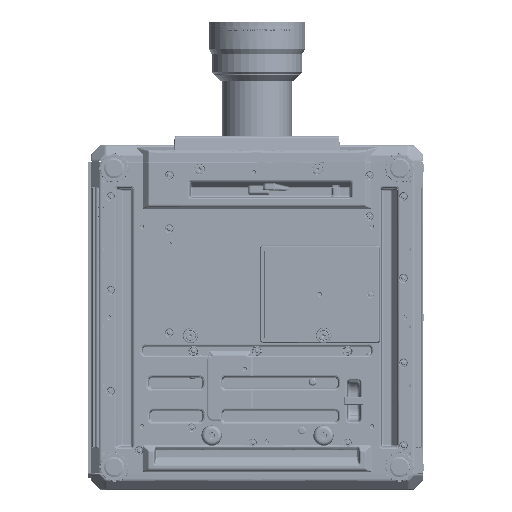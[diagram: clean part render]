
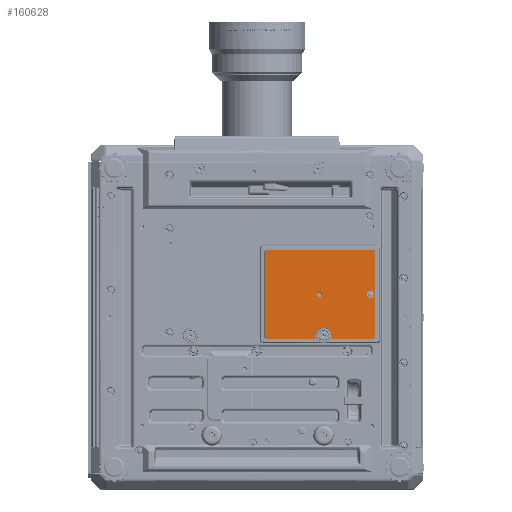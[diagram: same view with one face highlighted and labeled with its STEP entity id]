
A CAD part, front view. The second image highlights one B-rep face of the part: STEP entity #160628.
In plain terms, the highlighted planar face has unit normal (0, -1, 0).
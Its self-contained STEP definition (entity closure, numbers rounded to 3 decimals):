
#15108=ELLIPSE('',#349936,1.504,1.5);
#15109=ELLIPSE('',#349937,1.504,1.5);
#15110=ELLIPSE('',#349939,1.504,1.5);
#15111=ELLIPSE('',#349940,1.504,1.5);
#41187=LINE('',#520920,#67262);
#41188=LINE('',#520925,#67263);
#41189=LINE('',#520929,#67264);
#41190=LINE('',#520973,#67265);
#41191=LINE('',#520977,#67266);
#67262=VECTOR('',#401136,1.);
#67263=VECTOR('',#401139,1.);
#67264=VECTOR('',#401142,1.);
#67265=VECTOR('',#401145,1.);
#67266=VECTOR('',#401148,1.);
#84534=B_SPLINE_CURVE_WITH_KNOTS('',3,(#520931,#520932,#520933,#520934,
#520935,#520936,#520937,#520938,#520939,#520940,#520941,#520942,#520943,
#520944,#520945,#520946,#520947,#520948,#520949),.UNSPECIFIED.,.F.,.F.,
(4,3,3,3,3,3,4),(0.,0.054,0.243,0.432,
0.621,0.811,1.),.UNSPECIFIED.);
#84535=B_SPLINE_CURVE_WITH_KNOTS('',3,(#520953,#520954,#520955,#520956,
#520957,#520958,#520959,#520960,#520961,#520962,#520963,#520964,#520965,
#520966,#520967,#520968,#520969,#520970,#520971),.UNSPECIFIED.,.F.,.F.,
(4,3,3,3,3,3,4),(0.,0.054,0.243,0.432,
0.621,0.811,1.),.UNSPECIFIED.);
#160628=ADVANCED_FACE('',(#172300,#172301,#172302),#168080,.F.);
#168080=PLANE('',#349941);
#172300=FACE_BOUND('',#179466,.T.);
#172301=FACE_BOUND('',#179467,.T.);
#172302=FACE_BOUND('',#179468,.T.);
#179466=EDGE_LOOP('',(#215989));
#179467=EDGE_LOOP('',(#215990));
#179468=EDGE_LOOP('',(#215991,#215992,#215993,#215994,#215995,#215996,#215997,
#215998,#215999,#216000,#216001,#216002));
#215989=ORIENTED_EDGE('',*,*,#305761,.T.);
#215990=ORIENTED_EDGE('',*,*,#305762,.T.);
#215991=ORIENTED_EDGE('',*,*,#305763,.T.);
#215992=ORIENTED_EDGE('',*,*,#305764,.T.);
#215993=ORIENTED_EDGE('',*,*,#305765,.T.);
#215994=ORIENTED_EDGE('',*,*,#305766,.T.);
#215995=ORIENTED_EDGE('',*,*,#305767,.T.);
#215996=ORIENTED_EDGE('',*,*,#305768,.T.);
#215997=ORIENTED_EDGE('',*,*,#305769,.T.);
#215998=ORIENTED_EDGE('',*,*,#305770,.T.);
#215999=ORIENTED_EDGE('',*,*,#305771,.T.);
#216000=ORIENTED_EDGE('',*,*,#305772,.T.);
#216001=ORIENTED_EDGE('',*,*,#305773,.T.);
#216002=ORIENTED_EDGE('',*,*,#305774,.T.);
#263201=VERTEX_POINT('',#520916);
#263202=VERTEX_POINT('',#520919);
#263203=VERTEX_POINT('',#520921);
#263204=VERTEX_POINT('',#520922);
#263205=VERTEX_POINT('',#520924);
#263206=VERTEX_POINT('',#520926);
#263207=VERTEX_POINT('',#520928);
#263208=VERTEX_POINT('',#520930);
#263209=VERTEX_POINT('',#520950);
#263210=VERTEX_POINT('',#520952);
#263211=VERTEX_POINT('',#520972);
#263212=VERTEX_POINT('',#520974);
#263213=VERTEX_POINT('',#520976);
#263214=VERTEX_POINT('',#520978);
#305761=EDGE_CURVE('',#263201,#263201,#333121,.T.);
#305762=EDGE_CURVE('',#263202,#263202,#333122,.T.);
#305763=EDGE_CURVE('',#263203,#263204,#41187,.T.);
#305764=EDGE_CURVE('',#263204,#263205,#15108,.T.);
#305765=EDGE_CURVE('',#263205,#263206,#41188,.T.);
#305766=EDGE_CURVE('',#263206,#263207,#15109,.T.);
#305767=EDGE_CURVE('',#263207,#263208,#41189,.T.);
#305768=EDGE_CURVE('',#263208,#263209,#84534,.T.);
#305769=EDGE_CURVE('',#263209,#263210,#333123,.T.);
#305770=EDGE_CURVE('',#263210,#263211,#84535,.T.);
#305771=EDGE_CURVE('',#263211,#263212,#41190,.T.);
#305772=EDGE_CURVE('',#263212,#263213,#15110,.T.);
#305773=EDGE_CURVE('',#263213,#263214,#41191,.T.);
#305774=EDGE_CURVE('',#263214,#263203,#15111,.T.);
#333121=CIRCLE('',#349933,4.);
#333122=CIRCLE('',#349935,6.125);
#333123=CIRCLE('',#349938,13.358);
#349933=AXIS2_PLACEMENT_3D('',#520915,#401130,#401131);
#349935=AXIS2_PLACEMENT_3D('',#520918,#401134,#401135);
#349936=AXIS2_PLACEMENT_3D('',#520923,#401137,#401138);
#349937=AXIS2_PLACEMENT_3D('',#520927,#401140,#401141);
#349938=AXIS2_PLACEMENT_3D('',#520951,#401143,#401144);
#349939=AXIS2_PLACEMENT_3D('',#520975,#401146,#401147);
#349940=AXIS2_PLACEMENT_3D('',#520979,#401149,#401150);
#349941=AXIS2_PLACEMENT_3D('',#520980,#401151,#401152);
#401130=DIRECTION('',(0.,1.,0.));
#401131=DIRECTION('',(0.,0.,1.));
#401134=DIRECTION('',(0.,1.,0.));
#401135=DIRECTION('',(0.,0.,1.));
#401136=DIRECTION('',(-1.,0.,0.));
#401137=DIRECTION('',(0.,-1.,0.));
#401138=DIRECTION('',(0.707,0.,-0.707));
#401139=DIRECTION('',(0.,0.,-1.));
#401140=DIRECTION('',(0.,-1.,0.));
#401141=DIRECTION('',(-0.707,0.,-0.707));
#401142=DIRECTION('',(1.,0.,0.));
#401143=DIRECTION('',(0.,1.,0.));
#401144=DIRECTION('',(0.,0.,1.));
#401145=DIRECTION('',(1.,0.,0.));
#401146=DIRECTION('',(0.,-1.,0.));
#401147=DIRECTION('',(-0.707,0.,0.707));
#401148=DIRECTION('',(0.,0.,1.));
#401149=DIRECTION('',(0.,-1.,0.));
#401150=DIRECTION('',(-0.707,0.,-0.707));
#401151=DIRECTION('',(0.,1.,0.));
#401152=DIRECTION('',(0.,0.,1.));
#520915=CARTESIAN_POINT('',(103.8,-116.5,-1.5));
#520916=CARTESIAN_POINT('',(103.8,-116.5,2.5));
#520918=CARTESIAN_POINT('',(187.8,-116.5,-1.5));
#520919=CARTESIAN_POINT('',(187.8,-116.5,4.625));
#520920=CARTESIAN_POINT('',(110.,-116.5,71.642));
#520921=CARTESIAN_POINT('',(193.644,-116.5,71.642));
#520922=CARTESIAN_POINT('',(14.356,-116.5,71.642));
#520923=CARTESIAN_POINT('',(14.36,-116.5,70.14));
#520924=CARTESIAN_POINT('',(12.858,-116.5,70.144));
#520925=CARTESIAN_POINT('',(12.858,-116.5,-70.));
#520926=CARTESIAN_POINT('',(12.858,-116.5,-73.144));
#520927=CARTESIAN_POINT('',(14.36,-116.5,-73.14));
#520928=CARTESIAN_POINT('',(14.356,-116.5,-74.642));
#520929=CARTESIAN_POINT('',(110.,-116.5,-74.642));
#520930=CARTESIAN_POINT('',(95.481,-116.5,-74.642));
#520931=CARTESIAN_POINT('',(95.481,-116.5,-74.642));
#520932=CARTESIAN_POINT('',(95.529,-116.5,-74.642));
#520933=CARTESIAN_POINT('',(95.578,-116.5,-74.64));
#520934=CARTESIAN_POINT('',(95.627,-116.5,-74.635));
#520935=CARTESIAN_POINT('',(95.794,-116.5,-74.619));
#520936=CARTESIAN_POINT('',(95.96,-116.5,-74.574));
#520937=CARTESIAN_POINT('',(96.112,-116.5,-74.503));
#520938=CARTESIAN_POINT('',(96.264,-116.5,-74.433));
#520939=CARTESIAN_POINT('',(96.405,-116.5,-74.335));
#520940=CARTESIAN_POINT('',(96.525,-116.5,-74.219));
#520941=CARTESIAN_POINT('',(96.645,-116.5,-74.102));
#520942=CARTESIAN_POINT('',(96.747,-116.5,-73.963));
#520943=CARTESIAN_POINT('',(96.822,-116.5,-73.813));
#520944=CARTESIAN_POINT('',(96.897,-116.5,-73.662));
#520945=CARTESIAN_POINT('',(96.947,-116.5,-73.497));
#520946=CARTESIAN_POINT('',(96.967,-116.5,-73.33));
#520947=CARTESIAN_POINT('',(96.988,-116.5,-73.164));
#520948=CARTESIAN_POINT('',(96.98,-116.5,-72.991));
#520949=CARTESIAN_POINT('',(96.945,-116.5,-72.827));
#520950=CARTESIAN_POINT('',(96.945,-116.5,-72.827));
#520951=CARTESIAN_POINT('',(110.,-116.5,-70.));
#520952=CARTESIAN_POINT('',(123.055,-116.5,-72.827));
#520953=CARTESIAN_POINT('',(123.055,-116.5,-72.827));
#520954=CARTESIAN_POINT('',(123.045,-116.5,-72.875));
#520955=CARTESIAN_POINT('',(123.037,-116.5,-72.923));
#520956=CARTESIAN_POINT('',(123.031,-116.5,-72.972));
#520957=CARTESIAN_POINT('',(123.012,-116.5,-73.138));
#520958=CARTESIAN_POINT('',(123.021,-116.5,-73.31));
#520959=CARTESIAN_POINT('',(123.058,-116.5,-73.473));
#520960=CARTESIAN_POINT('',(123.094,-116.5,-73.637));
#520961=CARTESIAN_POINT('',(123.159,-116.5,-73.796));
#520962=CARTESIAN_POINT('',(123.248,-116.5,-73.938));
#520963=CARTESIAN_POINT('',(123.337,-116.5,-74.08));
#520964=CARTESIAN_POINT('',(123.451,-116.5,-74.209));
#520965=CARTESIAN_POINT('',(123.582,-116.5,-74.313));
#520966=CARTESIAN_POINT('',(123.713,-116.5,-74.418));
#520967=CARTESIAN_POINT('',(123.864,-116.5,-74.502));
#520968=CARTESIAN_POINT('',(124.023,-116.5,-74.558));
#520969=CARTESIAN_POINT('',(124.181,-116.5,-74.613));
#520970=CARTESIAN_POINT('',(124.351,-116.5,-74.642));
#520971=CARTESIAN_POINT('',(124.519,-116.5,-74.642));
#520972=CARTESIAN_POINT('',(124.519,-116.5,-74.642));
#520973=CARTESIAN_POINT('',(110.,-116.5,-74.642));
#520974=CARTESIAN_POINT('',(193.644,-116.5,-74.642));
#520975=CARTESIAN_POINT('',(193.64,-116.5,-73.14));
#520976=CARTESIAN_POINT('',(195.142,-116.5,-73.144));
#520977=CARTESIAN_POINT('',(195.142,-116.5,-70.));
#520978=CARTESIAN_POINT('',(195.142,-116.5,70.144));
#520979=CARTESIAN_POINT('',(193.64,-116.5,70.14));
#520980=CARTESIAN_POINT('',(110.,-116.5,-70.));
